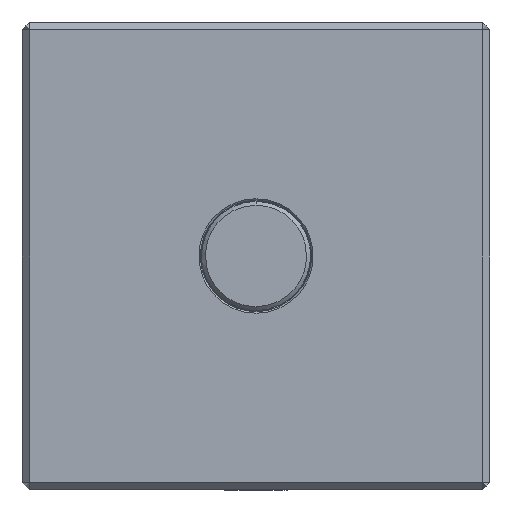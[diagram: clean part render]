
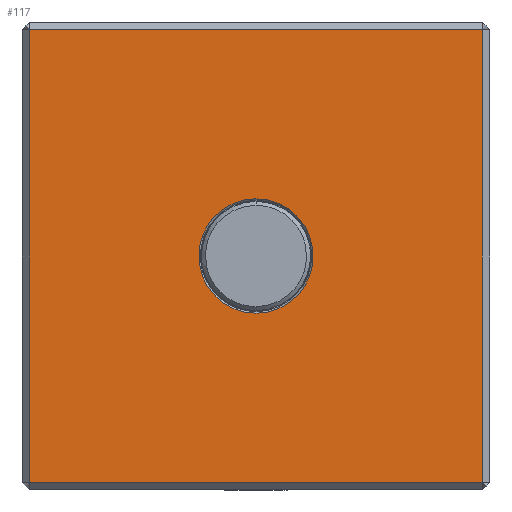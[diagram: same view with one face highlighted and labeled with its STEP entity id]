
A CAD part, left-side view. The second image highlights one B-rep face of the part: STEP entity #117.
In plain terms, the highlighted planar face has unit normal (-1, 0, 0).
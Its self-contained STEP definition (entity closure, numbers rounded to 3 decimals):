
#117=ADVANCED_FACE('',(#728,#658),#8738,.T.);
#658=FACE_BOUND('',#1292,.T.);
#728=FACE_OUTER_BOUND('',#1291,.T.);
#1291=EDGE_LOOP('',(#2073,#2074,#2075,#2076));
#1292=EDGE_LOOP('',(#2077,#2078));
#2073=ORIENTED_EDGE('',*,*,#4836,.F.);
#2074=ORIENTED_EDGE('',*,*,#4837,.F.);
#2075=ORIENTED_EDGE('',*,*,#4838,.F.);
#2076=ORIENTED_EDGE('',*,*,#4839,.F.);
#2077=ORIENTED_EDGE('',*,*,#5729,.F.);
#2078=ORIENTED_EDGE('',*,*,#4966,.F.);
#4836=EDGE_CURVE('',#7656,#7657,#6730,.T.);
#4837=EDGE_CURVE('',#7658,#7656,#6731,.T.);
#4838=EDGE_CURVE('',#7659,#7658,#6732,.T.);
#4839=EDGE_CURVE('',#7657,#7659,#6733,.T.);
#4966=EDGE_CURVE('',#7655,#8189,#6175,.T.);
#5729=EDGE_CURVE('',#8189,#7655,#6389,.T.);
#6175=(
BOUNDED_CURVE()
B_SPLINE_CURVE(2,(#15723,#15724,#15725,#15726,#15727),.UNSPECIFIED.,.F.,
 .F.)
B_SPLINE_CURVE_WITH_KNOTS((3,2,3),(0.,11.519,23.038),
 .UNSPECIFIED.)
CURVE()
GEOMETRIC_REPRESENTATION_ITEM()
RATIONAL_B_SPLINE_CURVE((1.,0.707,1.,0.707,1.))
REPRESENTATION_ITEM('')
);
#6389=(
BOUNDED_CURVE()
B_SPLINE_CURVE(2,(#18832,#18833,#18834,#18835,#18836),.UNSPECIFIED.,.F.,
 .F.)
B_SPLINE_CURVE_WITH_KNOTS((3,2,3),(23.038,34.557,46.076),
 .UNSPECIFIED.)
CURVE()
GEOMETRIC_REPRESENTATION_ITEM()
RATIONAL_B_SPLINE_CURVE((1.,0.707,1.,0.707,1.))
REPRESENTATION_ITEM('')
);
#6730=B_SPLINE_CURVE_WITH_KNOTS('',1,(#15277,#15278),.UNSPECIFIED.,.F.,
 .F.,(2,2),(-58.,0.),.UNSPECIFIED.);
#6731=B_SPLINE_CURVE_WITH_KNOTS('',1,(#15279,#15280),.UNSPECIFIED.,.F.,
 .F.,(2,2),(-58.,0.),.UNSPECIFIED.);
#6732=B_SPLINE_CURVE_WITH_KNOTS('',1,(#15281,#15282),.UNSPECIFIED.,.F.,
 .F.,(2,2),(-58.,0.),.UNSPECIFIED.);
#6733=B_SPLINE_CURVE_WITH_KNOTS('',1,(#15283,#15284),.UNSPECIFIED.,.F.,
 .F.,(2,2),(-58.,0.),.UNSPECIFIED.);
#7655=VERTEX_POINT('',#14272);
#7656=VERTEX_POINT('',#14273);
#7657=VERTEX_POINT('',#14274);
#7658=VERTEX_POINT('',#14275);
#7659=VERTEX_POINT('',#14276);
#8189=VERTEX_POINT('',#14806);
#8738=PLANE('',#9024);
#9024=AXIS2_PLACEMENT_3D('',#9805,#9396,$);
#9396=DIRECTION('',(-1.,0.,0.));
#9805=CARTESIAN_POINT('',(-95.,34.185,-35.41));
#14272=CARTESIAN_POINT('',(-95.,-1.225,7.333));
#14273=CARTESIAN_POINT('',(-95.,-30.225,-29.));
#14274=CARTESIAN_POINT('',(-95.,27.775,-29.));
#14275=CARTESIAN_POINT('',(-95.,-30.225,29.));
#14276=CARTESIAN_POINT('',(-95.,27.775,29.));
#14806=CARTESIAN_POINT('',(-95.,-1.225,-7.333));
#15277=CARTESIAN_POINT('',(-95.,-30.225,-29.));
#15278=CARTESIAN_POINT('',(-95.,27.775,-29.));
#15279=CARTESIAN_POINT('',(-95.,-30.225,29.));
#15280=CARTESIAN_POINT('',(-95.,-30.225,-29.));
#15281=CARTESIAN_POINT('',(-95.,27.775,29.));
#15282=CARTESIAN_POINT('',(-95.,-30.225,29.));
#15283=CARTESIAN_POINT('',(-95.,27.775,-29.));
#15284=CARTESIAN_POINT('',(-95.,27.775,29.));
#15723=CARTESIAN_POINT('',(-95.,-1.225,7.333));
#15724=CARTESIAN_POINT('',(-95.,6.108,7.333));
#15725=CARTESIAN_POINT('',(-95.,6.108,0.));
#15726=CARTESIAN_POINT('',(-95.,6.108,-7.333));
#15727=CARTESIAN_POINT('',(-95.,-1.225,-7.333));
#18832=CARTESIAN_POINT('',(-95.,-1.225,-7.333));
#18833=CARTESIAN_POINT('',(-95.,-8.558,-7.333));
#18834=CARTESIAN_POINT('',(-95.,-8.558,0.));
#18835=CARTESIAN_POINT('',(-95.,-8.558,7.333));
#18836=CARTESIAN_POINT('',(-95.,-1.225,7.333));
